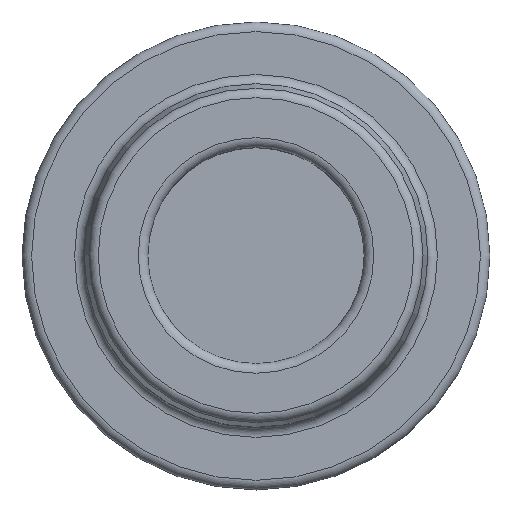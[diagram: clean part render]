
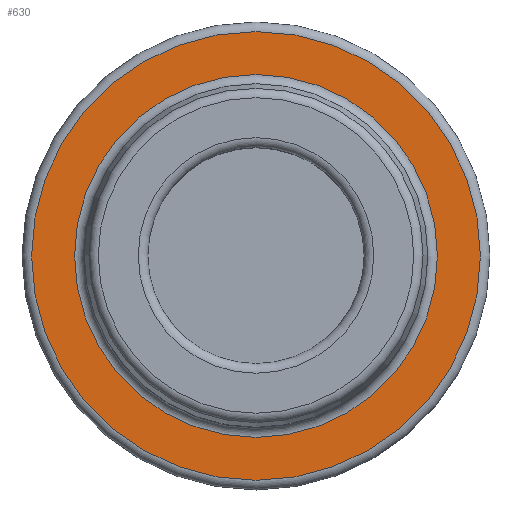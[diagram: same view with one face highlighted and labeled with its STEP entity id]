
A CAD part, top view. The second image highlights one B-rep face of the part: STEP entity #630.
In plain terms, the highlighted planar face has unit normal (0, 0, 1).
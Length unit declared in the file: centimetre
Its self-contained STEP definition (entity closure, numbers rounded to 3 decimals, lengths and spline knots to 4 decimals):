
#162=PLANE('',#681);
#191=VERTEX_POINT('',#897);
#193=VERTEX_POINT('',#902);
#245=CIRCLE('',#679,2.4028);
#247=CIRCLE('',#682,2.9718);
#283=EDGE_CURVE('',#191,#191,#245,.T.);
#285=EDGE_CURVE('',#193,#193,#247,.T.);
#365=ORIENTED_EDGE('',*,*,#285,.F.);
#366=ORIENTED_EDGE('',*,*,#283,.F.);
#517=EDGE_LOOP('',(#365));
#518=EDGE_LOOP('',(#366));
#577=FACE_BOUND('',#517,.T.);
#578=FACE_BOUND('',#518,.T.);
#630=ADVANCED_FACE('',(#577,#578),#162,.T.);
#679=AXIS2_PLACEMENT_3D('',#896,#763,#764);
#681=AXIS2_PLACEMENT_3D('',#900,#767,$);
#682=AXIS2_PLACEMENT_3D('',#901,#768,#769);
#763=DIRECTION('',(0.,0.,1.));
#764=DIRECTION('',(0.,2.403,0.));
#767=DIRECTION('',(0.,0.,1.));
#768=DIRECTION('',(0.,0.,-1.));
#769=DIRECTION('',(0.,-2.972,0.));
#896=CARTESIAN_POINT('',(0.,0.,-3.81));
#897=CARTESIAN_POINT('',(0.,-2.4028,-3.81));
#900=CARTESIAN_POINT('',(0.,1.5494,-3.81));
#901=CARTESIAN_POINT('',(0.,0.,-3.81));
#902=CARTESIAN_POINT('',(0.,2.9718,-3.81));
